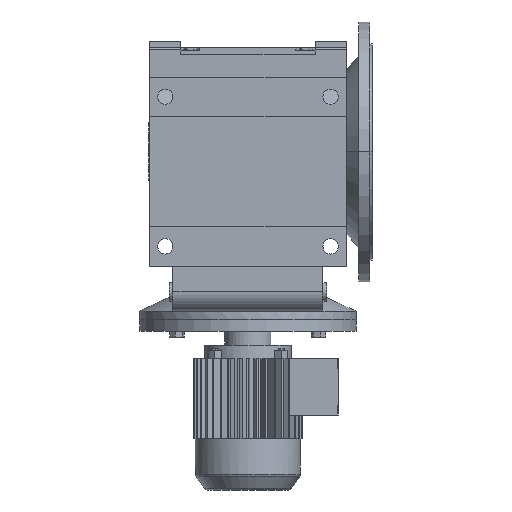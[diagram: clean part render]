
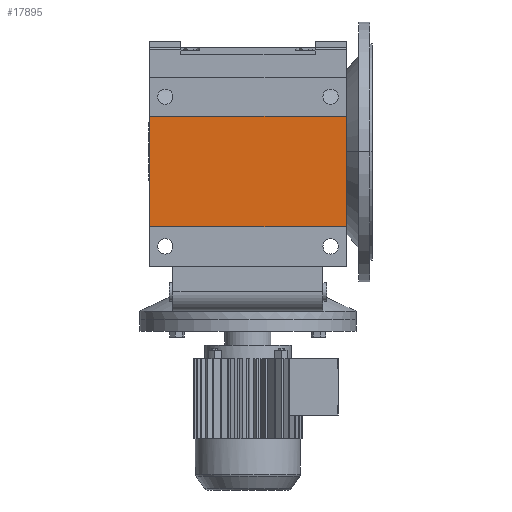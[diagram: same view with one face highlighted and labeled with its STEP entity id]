
A CAD part, front view. The second image highlights one B-rep face of the part: STEP entity #17895.
In plain terms, the highlighted planar face has unit normal (0, -1, 0).
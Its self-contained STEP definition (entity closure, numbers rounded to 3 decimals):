
#8795 = PLANE('',#8796);
#8796 = AXIS2_PLACEMENT_3D('',#8797,#8798,#8799);
#8797 = CARTESIAN_POINT('',(-250.,-380.25,226.));
#8798 = DIRECTION('',(1.,0.,0.));
#8799 = DIRECTION('',(0.,0.,-1.));
#12213 = VERTEX_POINT('',#12214);
#12214 = CARTESIAN_POINT('',(-250.,-434.25,-190.));
#12228 = PLANE('',#12229);
#12229 = AXIS2_PLACEMENT_3D('',#12230,#12231,#12232);
#12230 = CARTESIAN_POINT('',(250.,-434.25,-190.));
#12231 = DIRECTION('',(0.,0.,-1.));
#12232 = DIRECTION('',(-1.,0.,0.));
#12240 = EDGE_CURVE('',#12241,#12213,#12243,.T.);
#12241 = VERTEX_POINT('',#12242);
#12242 = CARTESIAN_POINT('',(-250.,-434.25,90.));
#12243 = SURFACE_CURVE('',#12244,(#12248,#12255),.PCURVE_S1.);
#12244 = LINE('',#12245,#12246);
#12245 = CARTESIAN_POINT('',(-250.,-434.25,90.));
#12246 = VECTOR('',#12247,1.);
#12247 = DIRECTION('',(0.,0.,-1.));
#12248 = PCURVE('',#8795,#12249);
#12249 = DEFINITIONAL_REPRESENTATION('',(#12250),#12254);
#12250 = LINE('',#12251,#12252);
#12251 = CARTESIAN_POINT('',(136.,-54.));
#12252 = VECTOR('',#12253,1.);
#12253 = DIRECTION('',(1.,0.));
#12254 = ( GEOMETRIC_REPRESENTATION_CONTEXT(2) 
PARAMETRIC_REPRESENTATION_CONTEXT() REPRESENTATION_CONTEXT('2D SPACE',''
  ) );
#12255 = PCURVE('',#12256,#12261);
#12256 = PLANE('',#12257);
#12257 = AXIS2_PLACEMENT_3D('',#12258,#12259,#12260);
#12258 = CARTESIAN_POINT('',(-190.5,-434.25,230.));
#12259 = DIRECTION('',(0.,-1.,0.));
#12260 = DIRECTION('',(0.,0.,-1.));
#12261 = DEFINITIONAL_REPRESENTATION('',(#12262),#12266);
#12262 = LINE('',#12263,#12264);
#12263 = CARTESIAN_POINT('',(140.,-59.5));
#12264 = VECTOR('',#12265,1.);
#12265 = DIRECTION('',(1.,0.));
#12266 = ( GEOMETRIC_REPRESENTATION_CONTEXT(2) 
PARAMETRIC_REPRESENTATION_CONTEXT() REPRESENTATION_CONTEXT('2D SPACE',''
  ) );
#12284 = PLANE('',#12285);
#12285 = AXIS2_PLACEMENT_3D('',#12286,#12287,#12288);
#12286 = CARTESIAN_POINT('',(250.,-434.25,90.));
#12287 = DIRECTION('',(0.,0.,1.));
#12288 = DIRECTION('',(1.,0.,0.));
#12753 = PLANE('',#12754);
#12754 = AXIS2_PLACEMENT_3D('',#12755,#12756,#12757);
#12755 = CARTESIAN_POINT('',(250.,-380.25,226.));
#12756 = DIRECTION('',(1.,0.,0.));
#12757 = DIRECTION('',(0.,0.,-1.));
#17389 = VERTEX_POINT('',#17390);
#17390 = CARTESIAN_POINT('',(250.,-434.25,-190.));
#17411 = EDGE_CURVE('',#17389,#12213,#17412,.T.);
#17412 = SURFACE_CURVE('',#17413,(#17417,#17424),.PCURVE_S1.);
#17413 = LINE('',#17414,#17415);
#17414 = CARTESIAN_POINT('',(250.,-434.25,-190.));
#17415 = VECTOR('',#17416,1.);
#17416 = DIRECTION('',(-1.,0.,0.));
#17417 = PCURVE('',#12228,#17418);
#17418 = DEFINITIONAL_REPRESENTATION('',(#17419),#17423);
#17419 = LINE('',#17420,#17421);
#17420 = CARTESIAN_POINT('',(0.,0.));
#17421 = VECTOR('',#17422,1.);
#17422 = DIRECTION('',(1.,0.));
#17423 = ( GEOMETRIC_REPRESENTATION_CONTEXT(2) 
PARAMETRIC_REPRESENTATION_CONTEXT() REPRESENTATION_CONTEXT('2D SPACE',''
  ) );
#17424 = PCURVE('',#12256,#17425);
#17425 = DEFINITIONAL_REPRESENTATION('',(#17426),#17430);
#17426 = LINE('',#17427,#17428);
#17427 = CARTESIAN_POINT('',(420.,440.5));
#17428 = VECTOR('',#17429,1.);
#17429 = DIRECTION('',(0.,-1.));
#17430 = ( GEOMETRIC_REPRESENTATION_CONTEXT(2) 
PARAMETRIC_REPRESENTATION_CONTEXT() REPRESENTATION_CONTEXT('2D SPACE',''
  ) );
#17706 = EDGE_CURVE('',#17707,#12241,#17709,.T.);
#17707 = VERTEX_POINT('',#17708);
#17708 = CARTESIAN_POINT('',(250.,-434.25,90.));
#17709 = SURFACE_CURVE('',#17710,(#17714,#17721),.PCURVE_S1.);
#17710 = LINE('',#17711,#17712);
#17711 = CARTESIAN_POINT('',(250.,-434.25,90.));
#17712 = VECTOR('',#17713,1.);
#17713 = DIRECTION('',(-1.,0.,0.));
#17714 = PCURVE('',#12284,#17715);
#17715 = DEFINITIONAL_REPRESENTATION('',(#17716),#17720);
#17716 = LINE('',#17717,#17718);
#17717 = CARTESIAN_POINT('',(0.,0.));
#17718 = VECTOR('',#17719,1.);
#17719 = DIRECTION('',(-1.,0.));
#17720 = ( GEOMETRIC_REPRESENTATION_CONTEXT(2) 
PARAMETRIC_REPRESENTATION_CONTEXT() REPRESENTATION_CONTEXT('2D SPACE',''
  ) );
#17721 = PCURVE('',#12256,#17722);
#17722 = DEFINITIONAL_REPRESENTATION('',(#17723),#17727);
#17723 = LINE('',#17724,#17725);
#17724 = CARTESIAN_POINT('',(140.,440.5));
#17725 = VECTOR('',#17726,1.);
#17726 = DIRECTION('',(0.,-1.));
#17727 = ( GEOMETRIC_REPRESENTATION_CONTEXT(2) 
PARAMETRIC_REPRESENTATION_CONTEXT() REPRESENTATION_CONTEXT('2D SPACE',''
  ) );
#17895 = ADVANCED_FACE('',(#17896),#12256,.T.);
#17896 = FACE_BOUND('',#17897,.T.);
#17897 = EDGE_LOOP('',(#17898,#17899,#17900,#17921));
#17898 = ORIENTED_EDGE('',*,*,#12240,.T.);
#17899 = ORIENTED_EDGE('',*,*,#17411,.F.);
#17900 = ORIENTED_EDGE('',*,*,#17901,.F.);
#17901 = EDGE_CURVE('',#17707,#17389,#17902,.T.);
#17902 = SURFACE_CURVE('',#17903,(#17907,#17914),.PCURVE_S1.);
#17903 = LINE('',#17904,#17905);
#17904 = CARTESIAN_POINT('',(250.,-434.25,90.));
#17905 = VECTOR('',#17906,1.);
#17906 = DIRECTION('',(0.,0.,-1.));
#17907 = PCURVE('',#12256,#17908);
#17908 = DEFINITIONAL_REPRESENTATION('',(#17909),#17913);
#17909 = LINE('',#17910,#17911);
#17910 = CARTESIAN_POINT('',(140.,440.5));
#17911 = VECTOR('',#17912,1.);
#17912 = DIRECTION('',(1.,0.));
#17913 = ( GEOMETRIC_REPRESENTATION_CONTEXT(2) 
PARAMETRIC_REPRESENTATION_CONTEXT() REPRESENTATION_CONTEXT('2D SPACE',''
  ) );
#17914 = PCURVE('',#12753,#17915);
#17915 = DEFINITIONAL_REPRESENTATION('',(#17916),#17920);
#17916 = LINE('',#17917,#17918);
#17917 = CARTESIAN_POINT('',(136.,-54.));
#17918 = VECTOR('',#17919,1.);
#17919 = DIRECTION('',(1.,0.));
#17920 = ( GEOMETRIC_REPRESENTATION_CONTEXT(2) 
PARAMETRIC_REPRESENTATION_CONTEXT() REPRESENTATION_CONTEXT('2D SPACE',''
  ) );
#17921 = ORIENTED_EDGE('',*,*,#17706,.T.);
